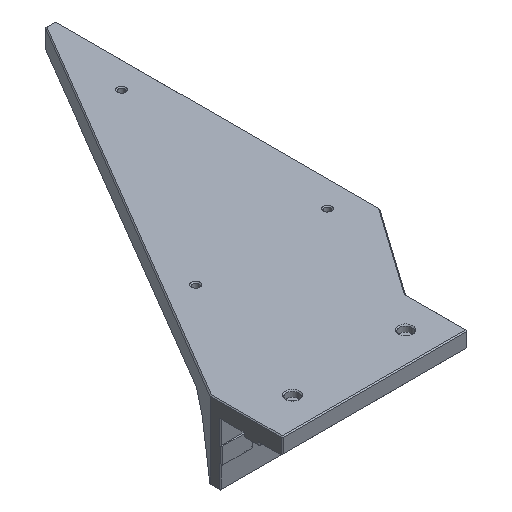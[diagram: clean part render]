
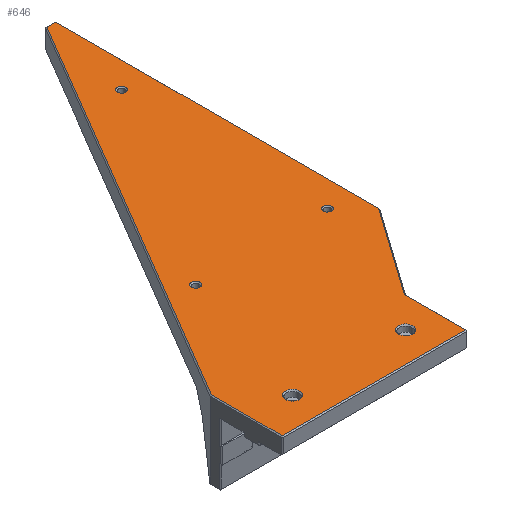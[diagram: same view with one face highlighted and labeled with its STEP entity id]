
A CAD part, isometric view. The second image highlights one B-rep face of the part: STEP entity #646.
In plain terms, the highlighted planar face has unit normal (0, 0, 1).
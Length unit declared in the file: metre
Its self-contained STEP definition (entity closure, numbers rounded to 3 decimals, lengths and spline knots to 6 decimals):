
#646 = ADVANCED_FACE( '', ( #1381, #1382, #1383, #1384, #1385, #1386 ), #1387, .F. );
#1381 = FACE_BOUND( '', #2329, .T. );
#1382 = FACE_BOUND( '', #2330, .T. );
#1383 = FACE_BOUND( '', #2331, .T. );
#1384 = FACE_BOUND( '', #2332, .T. );
#1385 = FACE_BOUND( '', #2333, .T. );
#1386 = FACE_OUTER_BOUND( '', #2334, .T. );
#1387 = PLANE( '', #2335 );
#2329 = EDGE_LOOP( '', ( #4196 ) );
#2330 = EDGE_LOOP( '', ( #4197 ) );
#2331 = EDGE_LOOP( '', ( #4198 ) );
#2332 = EDGE_LOOP( '', ( #4199 ) );
#2333 = EDGE_LOOP( '', ( #4200 ) );
#2334 = EDGE_LOOP( '', ( #4201, #4202, #4203, #4204, #4205, #4206, #4207 ) );
#2335 = AXIS2_PLACEMENT_3D( '', #4208, #4209, #4210 );
#4196 = ORIENTED_EDGE( '', *, *, #5161, .T. );
#4197 = ORIENTED_EDGE( '', *, *, #5152, .T. );
#4198 = ORIENTED_EDGE( '', *, *, #5415, .T. );
#4199 = ORIENTED_EDGE( '', *, *, #5155, .T. );
#4200 = ORIENTED_EDGE( '', *, *, #5505, .T. );
#4201 = ORIENTED_EDGE( '', *, *, #5397, .T. );
#4202 = ORIENTED_EDGE( '', *, *, #5029, .T. );
#4203 = ORIENTED_EDGE( '', *, *, #5079, .T. );
#4204 = ORIENTED_EDGE( '', *, *, #5624, .T. );
#4205 = ORIENTED_EDGE( '', *, *, #5596, .T. );
#4206 = ORIENTED_EDGE( '', *, *, #5241, .T. );
#4207 = ORIENTED_EDGE( '', *, *, #5625, .T. );
#4208 = CARTESIAN_POINT( '', ( 0.060881, -0.003209, 0.195 ) );
#4209 = DIRECTION( '', ( 0., 0., -1. ) );
#4210 = DIRECTION( '', ( 0., -1., 0. ) );
#5029 = EDGE_CURVE( '', #6041, #6039, #6042, .T. );
#5079 = EDGE_CURVE( '', #6039, #6125, #6127, .T. );
#5152 = EDGE_CURVE( '', #6251, #6251, #6252, .T. );
#5155 = EDGE_CURVE( '', #6256, #6256, #6257, .T. );
#5161 = EDGE_CURVE( '', #6263, #6263, #6264, .T. );
#5241 = EDGE_CURVE( '', #6381, #6385, #6387, .T. );
#5397 = EDGE_CURVE( '', #6614, #6041, #6615, .T. );
#5415 = EDGE_CURVE( '', #6641, #6641, #6642, .T. );
#5505 = EDGE_CURVE( '', #6758, #6758, #6759, .T. );
#5596 = EDGE_CURVE( '', #6801, #6381, #6867, .T. );
#5624 = EDGE_CURVE( '', #6125, #6801, #6899, .T. );
#5625 = EDGE_CURVE( '', #6385, #6614, #6900, .T. );
#6039 = VERTEX_POINT( '', #7479 );
#6041 = VERTEX_POINT( '', #7482 );
#6042 = LINE( '', #7483, #7484 );
#6125 = VERTEX_POINT( '', #7600 );
#6127 = LINE( '', #7603, #7604 );
#6251 = VERTEX_POINT( '', #7822 );
#6252 = CIRCLE( '', #7823, 0.0035 );
#6256 = VERTEX_POINT( '', #7827 );
#6257 = CIRCLE( '', #7828, 0.00205 );
#6263 = VERTEX_POINT( '', #7837 );
#6264 = CIRCLE( '', #7838, 0.0035 );
#6381 = VERTEX_POINT( '', #8003 );
#6385 = VERTEX_POINT( '', #8009 );
#6387 = LINE( '', #8012, #8013 );
#6614 = VERTEX_POINT( '', #8346 );
#6615 = LINE( '', #8347, #8348 );
#6641 = VERTEX_POINT( '', #8385 );
#6642 = CIRCLE( '', #8386, 0.00205 );
#6758 = VERTEX_POINT( '', #8554 );
#6759 = CIRCLE( '', #8555, 0.00205 );
#6801 = VERTEX_POINT( '', #8611 );
#6867 = LINE( '', #8713, #8714 );
#6899 = LINE( '', #8759, #8760 );
#6900 = LINE( '', #8761, #8762 );
#7479 = CARTESIAN_POINT( '', ( -0.053619, -0.054846, 0.195 ) );
#7482 = CARTESIAN_POINT( '', ( 0.061167, 0.139791, 0.195 ) );
#7483 = CARTESIAN_POINT( '', ( -0.053688, -0.054963, 0.195 ) );
#7484 = VECTOR( '', #9104, 1. );
#7600 = CARTESIAN_POINT( '', ( -0.053619, -0.089209, 0.195 ) );
#7603 = CARTESIAN_POINT( '', ( -0.053619, -0.003209, 0.195 ) );
#7604 = VECTOR( '', #9149, 1. );
#7822 = CARTESIAN_POINT( '', ( -0.034119, -0.071209, 0.195 ) );
#7823 = AXIS2_PLACEMENT_3D( '', #9214, #9215, #9216 );
#7827 = CARTESIAN_POINT( '', ( 0.052881, -0.002659, 0.195 ) );
#7828 = AXIS2_PLACEMENT_3D( '', #9220, #9221, #9222 );
#7837 = CARTESIAN_POINT( '', ( 0.020881, -0.071209, 0.195 ) );
#7838 = AXIS2_PLACEMENT_3D( '', #9225, #9226, #9227 );
#8003 = CARTESIAN_POINT( '', ( 0.035381, -0.059551, 0.195 ) );
#8009 = CARTESIAN_POINT( '', ( 0.065381, -0.017011, 0.195 ) );
#8012 = CARTESIAN_POINT( '', ( 0.065473, -0.016881, 0.195 ) );
#8013 = VECTOR( '', #9307, 1. );
#8346 = CARTESIAN_POINT( '', ( 0.065381, 0.139791, 0.195 ) );
#8347 = CARTESIAN_POINT( '', ( 0.060881, 0.139791, 0.195 ) );
#8348 = VECTOR( '', #9441, 1. );
#8385 = CARTESIAN_POINT( '', ( -0.011119, -0.002659, 0.195 ) );
#8386 = AXIS2_PLACEMENT_3D( '', #9459, #9460, #9461 );
#8554 = CARTESIAN_POINT( '', ( 0.052881, 0.097341, 0.195 ) );
#8555 = AXIS2_PLACEMENT_3D( '', #9544, #9545, #9546 );
#8611 = CARTESIAN_POINT( '', ( 0.035381, -0.089209, 0.195 ) );
#8713 = CARTESIAN_POINT( '', ( 0.035381, -0.003209, 0.195 ) );
#8714 = VECTOR( '', #9627, 1. );
#8759 = CARTESIAN_POINT( '', ( 0.035881, -0.089209, 0.195 ) );
#8760 = VECTOR( '', #9652, 1. );
#8761 = CARTESIAN_POINT( '', ( 0.065381, 0.140291, 0.195 ) );
#8762 = VECTOR( '', #9653, 1. );
#9104 = DIRECTION( '', ( -0.508, -0.861, 0. ) );
#9149 = DIRECTION( '', ( 0., -1., 0. ) );
#9214 = CARTESIAN_POINT( '', ( -0.034119, -0.074709, 0.195 ) );
#9215 = DIRECTION( '', ( 0., 0., -1. ) );
#9216 = DIRECTION( '', ( 0., 1., 0. ) );
#9220 = CARTESIAN_POINT( '', ( 0.052881, -0.004709, 0.195 ) );
#9221 = DIRECTION( '', ( 0., 0., -1. ) );
#9222 = DIRECTION( '', ( 0., 1., 0. ) );
#9225 = CARTESIAN_POINT( '', ( 0.020881, -0.074709, 0.195 ) );
#9226 = DIRECTION( '', ( 0., 0., -1. ) );
#9227 = DIRECTION( '', ( 0., 1., 0. ) );
#9307 = DIRECTION( '', ( 0.576, 0.817, 0. ) );
#9441 = DIRECTION( '', ( -1., 0., 0. ) );
#9459 = CARTESIAN_POINT( '', ( -0.011119, -0.004709, 0.195 ) );
#9460 = DIRECTION( '', ( 0., 0., -1. ) );
#9461 = DIRECTION( '', ( 0., 1., 0. ) );
#9544 = CARTESIAN_POINT( '', ( 0.052881, 0.095291, 0.195 ) );
#9545 = DIRECTION( '', ( 0., 0., -1. ) );
#9546 = DIRECTION( '', ( 0., 1., 0. ) );
#9627 = DIRECTION( '', ( 0., 1., 0. ) );
#9652 = DIRECTION( '', ( 1., 0., 0. ) );
#9653 = DIRECTION( '', ( 0., 1., 0. ) );
